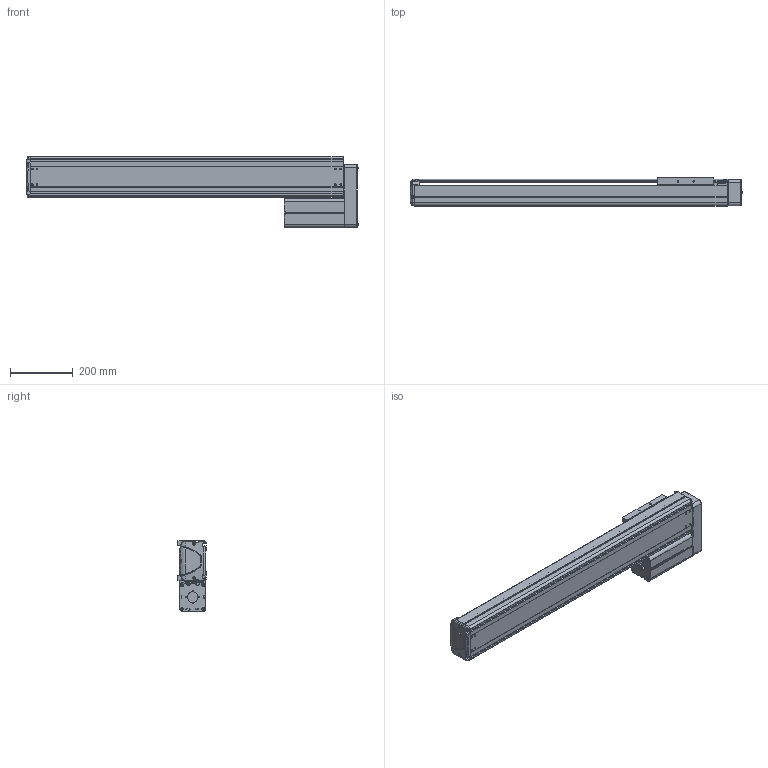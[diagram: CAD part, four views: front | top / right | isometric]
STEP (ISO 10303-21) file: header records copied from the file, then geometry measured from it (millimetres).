
FILE_DESCRIPTION((''),'2;1');
FILE_NAME('BE30E-UL-L_B-75_IGS_PRT','2017-06-17T',(' '),(''),'PRO/ENGINEER BY PARAMETRIC TECHNOLOGY CORPORATION, 2015030','PRO/ENGINEER BY PARAMETRIC TECHNOLOGY CORPORATION, 2015030','');
FILE_SCHEMA(('CONFIG_CONTROL_DESIGN'));
Length unit declared in the file: millimetre
Products named in the file (1): BE30E-UL-L_B-75_IGS_PRT
Bounding box: 1061.9 x 89.8 x 227 mm (x, y, z)
Volume: 3632289.8 mm3; surface area: 1573496 mm2
Topology: 2 solids, 127 shells, 2055 faces, 5548 edges, 3610 vertices
Faces by surface type: plane 998, cylinder 867, cone 101, torus 37, bspline 28, sphere 24
Entity records: 66675 total; most frequent: CARTESIAN_POINT 14136, DIRECTION 11107, ORIENTED_EDGE 10545, EDGE_CURVE 5510, AXIS2_PLACEMENT_3D 3924, VERTEX_POINT 3610, VECTOR 3259, LINE 3259
